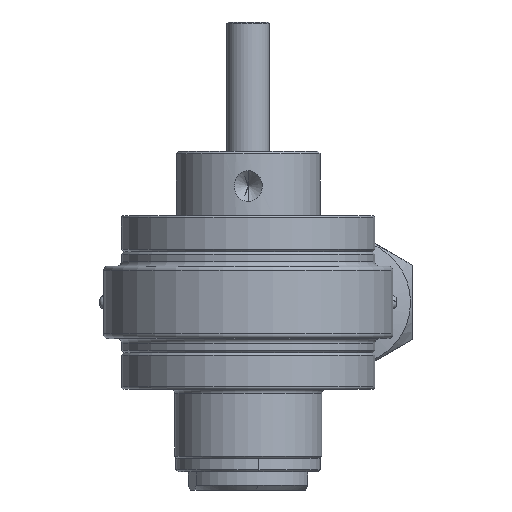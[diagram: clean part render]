
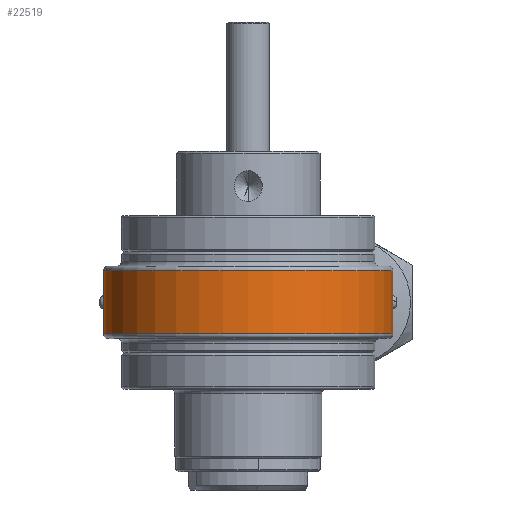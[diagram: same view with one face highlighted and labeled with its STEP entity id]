
A CAD part, front view. The second image highlights one B-rep face of the part: STEP entity #22519.
In plain terms, the highlighted cylindrical face has radius 32 mm (diameter 64 mm), a partial arc.
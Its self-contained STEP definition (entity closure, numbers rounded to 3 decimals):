
#94 = LINE ( 'NONE', #14139, #1133 ) ;
#679 = VECTOR ( 'NONE', #2495, 1000. ) ;
#1133 = VECTOR ( 'NONE', #40313, 1000. ) ;
#1969 = CYLINDRICAL_SURFACE ( 'NONE', #33017, 32. ) ;
#2495 = DIRECTION ( 'NONE',  ( 0., 0., -1. ) ) ;
#5085 = VERTEX_POINT ( 'NONE', #20338 ) ;
#5247 = DIRECTION ( 'NONE',  ( 1., 0., 0. ) ) ;
#6964 = VERTEX_POINT ( 'NONE', #8715 ) ;
#7280 = ORIENTED_EDGE ( 'NONE', *, *, #13507, .T. ) ;
#7573 = LINE ( 'NONE', #28248, #679 ) ;
#8200 = AXIS2_PLACEMENT_3D ( 'NONE', #22107, #15173, #5247 ) ;
#8715 = CARTESIAN_POINT ( 'NONE',  ( 32., 0., -7. ) ) ;
#11550 = VERTEX_POINT ( 'NONE', #16704 ) ;
#12623 = CIRCLE ( 'NONE', #32978, 32. ) ;
#13394 = ORIENTED_EDGE ( 'NONE', *, *, #29939, .F. ) ;
#13507 = EDGE_CURVE ( 'NONE', #5085, #30422, #12623, .T. ) ;
#14014 = CIRCLE ( 'NONE', #8200, 32. ) ;
#14139 = CARTESIAN_POINT ( 'NONE',  ( 32., 0., 8. ) ) ;
#15173 = DIRECTION ( 'NONE',  ( 0., 0., 1. ) ) ;
#16704 = CARTESIAN_POINT ( 'NONE',  ( -32., 0., -7. ) ) ;
#18706 = DIRECTION ( 'NONE',  ( 0., 0., -1. ) ) ;
#20338 = CARTESIAN_POINT ( 'NONE',  ( 32., 0., 7. ) ) ;
#21548 = FACE_OUTER_BOUND ( 'NONE', #32600, .T. ) ;
#22107 = CARTESIAN_POINT ( 'NONE',  ( 0., 0., -7. ) ) ;
#22519 = ADVANCED_FACE ( 'NONE', ( #21548 ), #1969, .T. ) ;
#23770 = ORIENTED_EDGE ( 'NONE', *, *, #34845, .T. ) ;
#25967 = DIRECTION ( 'NONE',  ( 0., 0., -1. ) ) ;
#28248 = CARTESIAN_POINT ( 'NONE',  ( -32., 0., 8. ) ) ;
#29639 = DIRECTION ( 'NONE',  ( -1., 0., 0. ) ) ;
#29939 = EDGE_CURVE ( 'NONE', #5085, #6964, #94, .T. ) ;
#30297 = ORIENTED_EDGE ( 'NONE', *, *, #37113, .T. ) ;
#30339 = CARTESIAN_POINT ( 'NONE',  ( -32., 0., 7. ) ) ;
#30422 = VERTEX_POINT ( 'NONE', #30339 ) ;
#32600 = EDGE_LOOP ( 'NONE', ( #13394, #7280, #30297, #23770 ) ) ;
#32881 = CARTESIAN_POINT ( 'NONE',  ( 0., 0., 7. ) ) ;
#32978 = AXIS2_PLACEMENT_3D ( 'NONE', #32881, #18706, #43247 ) ;
#33017 = AXIS2_PLACEMENT_3D ( 'NONE', #42210, #25967, #29639 ) ;
#34845 = EDGE_CURVE ( 'NONE', #11550, #6964, #14014, .T. ) ;
#37113 = EDGE_CURVE ( 'NONE', #30422, #11550, #7573, .T. ) ;
#40313 = DIRECTION ( 'NONE',  ( 0., 0., -1. ) ) ;
#42210 = CARTESIAN_POINT ( 'NONE',  ( 0., 0., 8. ) ) ;
#43247 = DIRECTION ( 'NONE',  ( 1., 0., 0. ) ) ;
